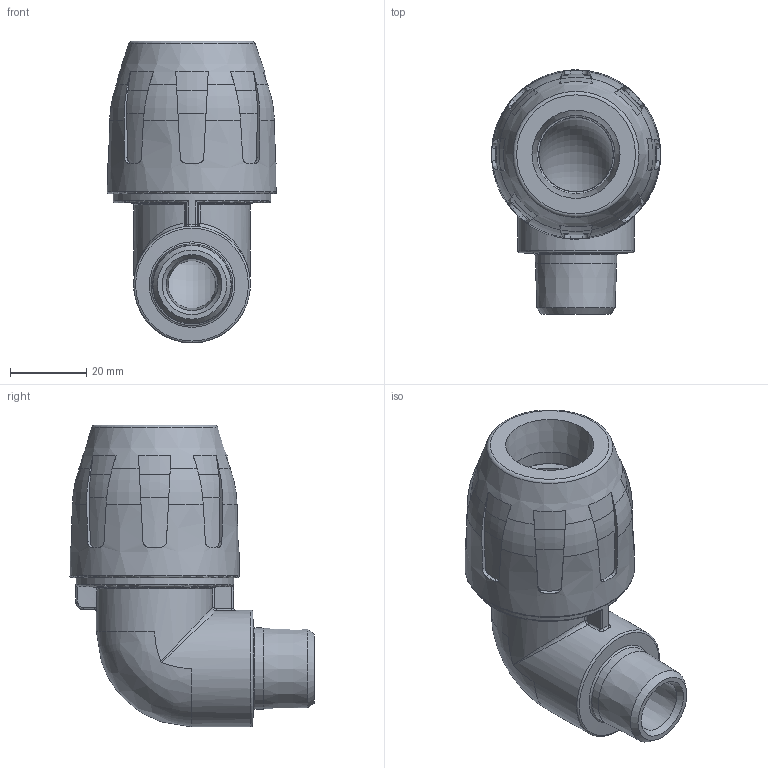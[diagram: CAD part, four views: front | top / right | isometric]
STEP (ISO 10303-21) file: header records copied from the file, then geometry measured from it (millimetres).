
FILE_DESCRIPTION( ( 'STEP AP214' ), '1' );
FILE_NAME( ' ', ' ', ( ' ' ), ( ' ' ), 'PSStep 11.0', 'VISI 17.0', ' ' );
FILE_SCHEMA( ( 'AUTOMOTIVE_DESIGN { 1 0 10303 214 1 1 1 1 }' ) );
Length unit declared in the file: millimetre
Products named in the file (2): 1; 2
Bounding box: 44.44 x 64 x 79.15 mm (x, y, z)
Volume: 64791.3 mm3; surface area: 31284.1 mm2
Topology: 2 solids, 2 shells, 280 faces, 744 edges, 477 vertices
Faces by surface type: plane 111, cone 79, bspline 38, cylinder 36, torus 16
Full cylindrical faces by diameter (mm): 19.5 x1, 20.6 x2, 24.9 x1, 30.583 x1, 32.2 x1, 32.3 x1, 33.9 x1, 36 x1, 36.739 x1, 36.8 x1, 41.4 x1, 42 x1
Entity records: 15069 total; most frequent: CARTESIAN_POINT 6502, ORIENTED_EDGE 1384, DIRECTION 1200, EDGE_CURVE 692, AXIS2_PLACEMENT_3D 528, VERTEX_POINT 462, EDGE_LOOP 330, FACE_OUTER_BOUND 302
